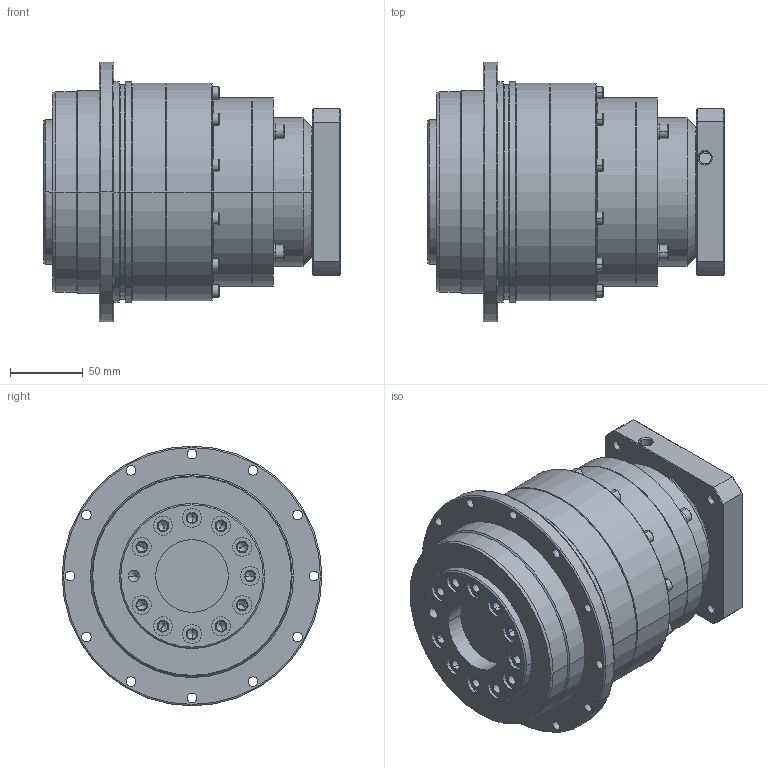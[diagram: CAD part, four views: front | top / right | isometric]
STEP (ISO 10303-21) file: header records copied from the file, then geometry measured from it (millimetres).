
FILE_DESCRIPTION((''),'2;1');
FILE_NAME('AD1402-P4140301_ASM','2006-05-23T',('D00080'),(''),'PRO/ENGINEER BY PARAMETRIC TECHNOLOGY CORPORATION, 2001280','PRO/ENGINEER BY PARAMETRIC TECHNOLOGY CORPORATION, 2001280','');
FILE_SCHEMA(('CONFIG_CONTROL_DESIGN'));
Length unit declared in the file: millimetre
Products named in the file (10): AD140-2; PH250001; 220120616; AD_RING_GEAR-SET2-5_ASM; PK740001; 233100004; 220100703; AD-COVER-SET-4_ASM; P4140301; AD1402-P4140301_ASM
Assembly tree (26 placements, depth 3):
  AD1402-P4140301_ASM
    AD140-2
    AD_RING_GEAR-SET2-5_ASM
      PH250001
      220120616  x12
    AD-COVER-SET-4_ASM
      PK740001
      233100004  x4
      220100703  x4
    P4140301
Bounding box: 204 x 179 x 179 mm (x, y, z)
Volume: 2827630.9 mm3; surface area: 287609.3 mm2
Topology: 24 solids, 56 shells, 1116 faces, 2475 edges, 1474 vertices
Faces by surface type: cylinder 457, plane 353, cone 248, torus 58
Entity records: 19055 total; most frequent: DIRECTION 3703, CARTESIAN_POINT 3293, ORIENTED_EDGE 2790, AXIS2_PLACEMENT_3D 1561, EDGE_CURVE 1459, VERTEX_POINT 918, CIRCLE 847, EDGE_LOOP 831
